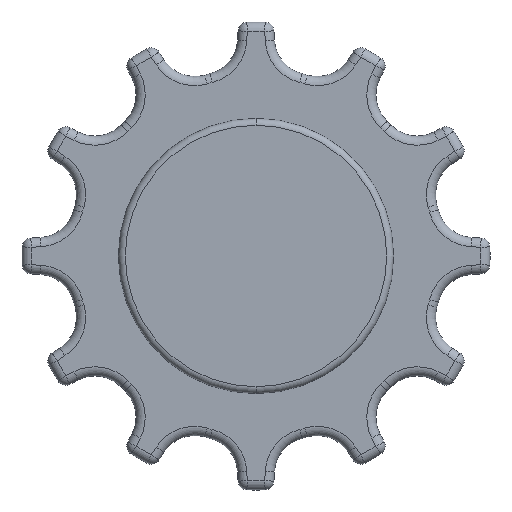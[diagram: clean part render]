
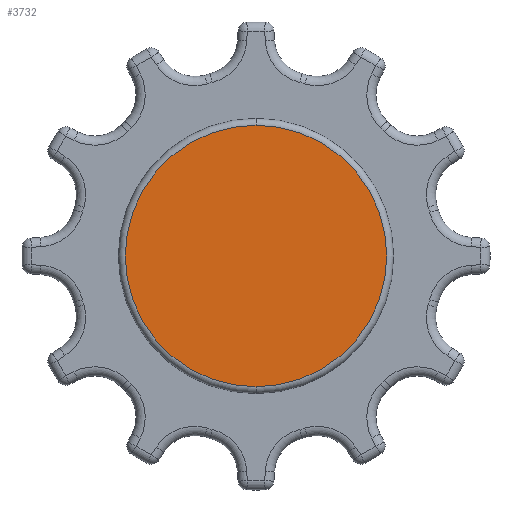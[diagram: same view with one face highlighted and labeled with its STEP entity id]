
A CAD part, left-side view. The second image highlights one B-rep face of the part: STEP entity #3732.
In plain terms, the highlighted planar face has unit normal (-1, 0, 0).
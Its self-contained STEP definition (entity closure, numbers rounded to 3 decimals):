
#1=CARTESIAN_POINT('',(-21.15,0.,0.));
#2=DIRECTION('',(-1.,0.,0.));
#3=DIRECTION('',(0.,0.,-1.));
#4=AXIS2_PLACEMENT_3D('',#1,#2,#3);
#6=CARTESIAN_POINT('',(-21.15,0.,0.));
#7=DIRECTION('',(-1.,0.,0.));
#8=DIRECTION('',(0.,0.,1.));
#9=AXIS2_PLACEMENT_3D('',#6,#7,#8);
#3267=CARTESIAN_POINT('',(-21.15,0.,-57.));
#3268=CARTESIAN_POINT('',(-21.15,0.,57.));
#3269=VERTEX_POINT('',#3267);
#3270=VERTEX_POINT('',#3268);
#3721=CARTESIAN_POINT('',(-21.15,0.,0.));
#3722=DIRECTION('',(1.,0.,0.));
#3723=DIRECTION('',(0.,0.,-1.));
#3724=AXIS2_PLACEMENT_3D('',#3721,#3722,#3723);
#3725=PLANE('',#3724);
#3727=ORIENTED_EDGE('',*,*,#3726,.F.);
#3729=ORIENTED_EDGE('',*,*,#3728,.F.);
#3730=EDGE_LOOP('',(#3727,#3729));
#3731=FACE_OUTER_BOUND('',#3730,.F.);
#3732=ADVANCED_FACE('',(#3731),#3725,.F.);
#5=CIRCLE('',#4,57.);
#10=CIRCLE('',#9,57.);
#3726=EDGE_CURVE('',#3269,#3270,#5,.T.);
#3728=EDGE_CURVE('',#3270,#3269,#10,.T.);
